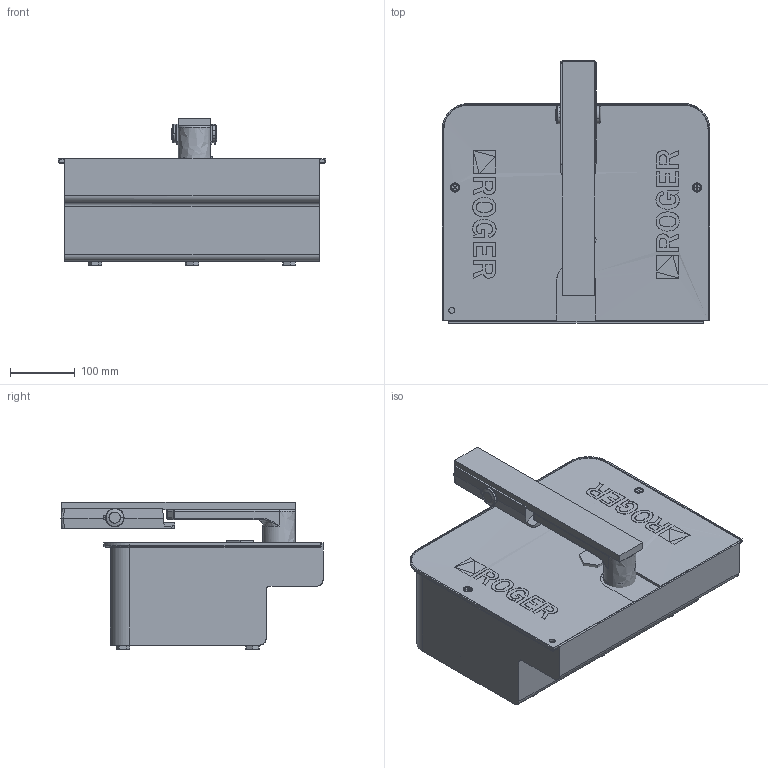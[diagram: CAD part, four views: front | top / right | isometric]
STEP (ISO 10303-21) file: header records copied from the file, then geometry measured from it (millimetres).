
FILE_DESCRIPTION ((), '1');
FILE_NAME ('P:\RT Belgium\fotos\3D\STEP - 3D\FU102.LT300.RL650.stp', '2024-10-22T11:03:58', ('Unknown'), ('Unknown'), 'HarmonyWare STEP v2.0.5', 'Vectorworks', '');
FILE_SCHEMA (('CONFIG_CONTROL_DESIGN'));
Length unit declared in the file: millimetre
Products named in the file (1584): NONE
Assembly tree (1583 placements, depth 2):
  NONE
    NONE
    NONE
    NONE
    NONE
    NONE
    NONE
    NONE
    NONE
    NONE
    NONE
    NONE
    NONE
    NONE
    NONE
    NONE
    NONE
    NONE
    NONE
    NONE
    NONE
    NONE
    NONE
    NONE
    NONE
    NONE
    NONE
    NONE
    NONE
    NONE
    NONE
    NONE
    NONE
    NONE
    NONE
    NONE
    NONE
    NONE
    NONE
    NONE
    NONE
    NONE
    NONE
    NONE
    NONE
    NONE
    NONE
    NONE
    NONE
    NONE
    NONE
    NONE
    NONE
    NONE
    NONE
    NONE
    NONE
    NONE
    NONE
    NONE
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Bounding box: 414 x 405 x 228.47 mm (x, y, z)
Volume: 18030482.6 mm3; surface area: 1193242.7 mm2
Topology: 20 solids, 1584 shells, 2420 faces, 9761 edges, 8947 vertices
Faces by surface type: bspline 2420
Entity records: 557406 total; most frequent: CARTESIAN_POINT 305013, PERSON 15838, ORGANIZATION 15838, PERSON_AND_ORGANIZATION 15838, ORIENTED_EDGE 11971, CALENDAR_DATE 11086, COORDINATED_UNIVERSAL_TIME_OFFSET 11086, LOCAL_TIME 11086
